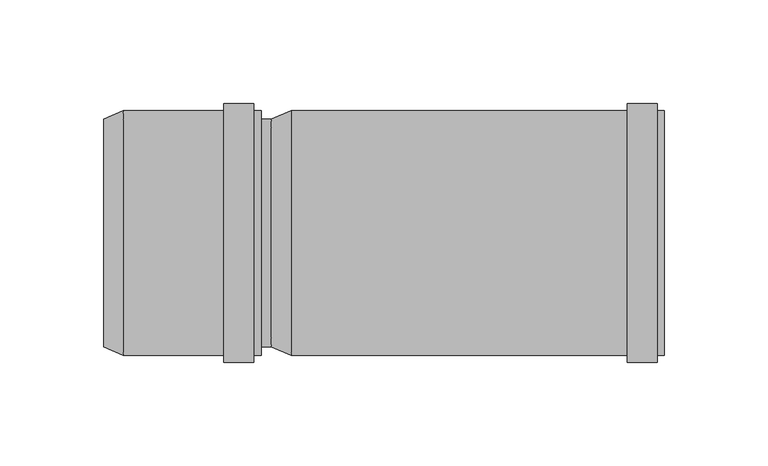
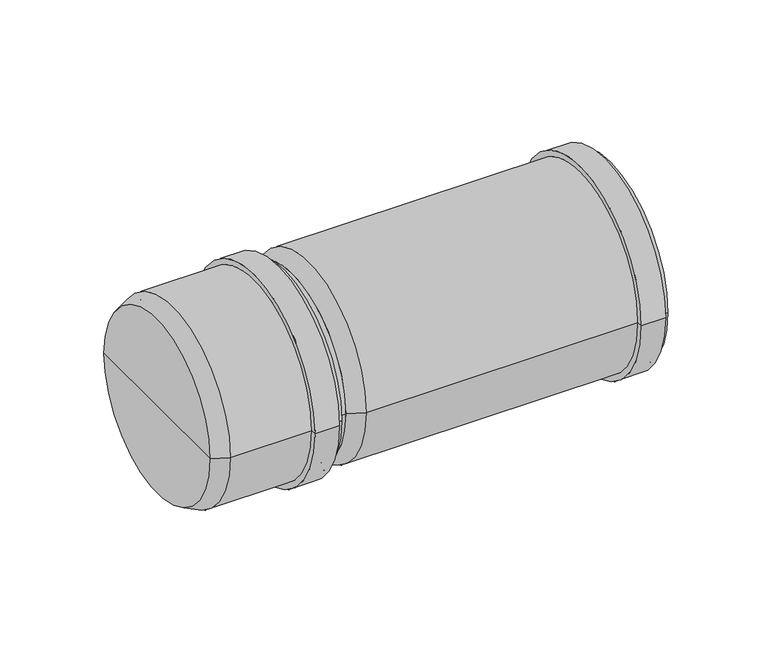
"""IFC4 building model written with IfcOpenShell, lengths in millimetres: pipe fitting geometry, pf_HTL : pf_HTL."""

import ifcopenshell
import ifcopenshell.guid

model = None  # the IFC model being written
_history = None  # IfcOwnerHistory: only IFC2X3 demands one
_inside = {}  # id of a spatial element -> (the spatial element, [elements in it])
_under = {}  # id of a project, library or spatial element -> (it, [spatial elements below it])
_declared = {}  # id of a project -> (the project, [libraries it declares])
_typed = {}  # id of a type object -> (the type object, [elements of that type])
_made_of = {}  # id of a material, layer set ... -> (it, [elements and type objects made of it])


def new_model(schema):
    """Start an empty IFC model of exactly this schema.

    Asked for "IFC4X3", IfcOpenShell would pick the latest addendum, in which some entities
    have other attributes; the version numbers below select the first issue.
    IFC2X3 requires an IfcOwnerHistory on every rooted entity: one is made here for all.
    """
    global model, _history
    if schema == "IFC4X3":
        model = ifcopenshell.file(schema_version=(4, 3, 0, 0))
    else:
        model = ifcopenshell.file(schema=schema)
    _inside.clear()
    _under.clear()
    _declared.clear()
    _typed.clear()
    _made_of.clear()
    _history = None
    if model.schema == "IFC2X3":
        org = make("IfcOrganization", Name="unknown")
        user = make(
            "IfcPersonAndOrganization",
            ThePerson=make("IfcPerson", FamilyName="unknown"),
            TheOrganization=org,
        )
        app = make(
            "IfcApplication",
            ApplicationDeveloper=org,
            Version="unknown",
            ApplicationFullName="unknown",
            ApplicationIdentifier="unknown",
        )
        _history = make(
            "IfcOwnerHistory",
            OwningUser=user,
            OwningApplication=app,
            ChangeAction="ADDED",
            CreationDate=0,
        )
    return model


def make(cls, **values):
    """One entity of the class cls with the attributes given. An attribute that is None is left unset."""
    return model.create_entity(
        cls, **{name: value for name, value in values.items() if value is not None}
    )


def rooted(cls, **values):
    """An entity with a GlobalId (a new one), such as an element, a storey or a relation."""
    return make(cls, GlobalId=ifcopenshell.guid.new(), OwnerHistory=_history, **values)


def si_unit(unit_type, name, prefix=None):
    """IfcSIUnit, for example si_unit("LENGTHUNIT", "METRE", prefix="MILLI")."""
    return make("IfcSIUnit", UnitType=unit_type, Prefix=prefix, Name=name)


def assignment(units):
    """IfcUnitAssignment: the units of a project."""
    return None if units is None else make("IfcUnitAssignment", Units=units)


def point(xyz):
    """IfcCartesianPoint."""
    return None if xyz is None else make("IfcCartesianPoint", Coordinates=xyz)


def direction(xyz):
    """IfcDirection."""
    return None if xyz is None else make("IfcDirection", DirectionRatios=xyz)


def frame(location, z_axis=None, x_axis=None):
    """IfcAxis2Placement3D, a coordinate frame: its origin and axes. An axis left out is left unset."""
    return make(
        "IfcAxis2Placement3D",
        Location=point(location),
        Axis=direction(z_axis),
        RefDirection=direction(x_axis),
    )


def frame_2d(location, x_axis=None):
    """IfcAxis2Placement2D, a coordinate frame in the plane: its origin and x axis."""
    return make(
        "IfcAxis2Placement2D", Location=point(location), RefDirection=direction(x_axis)
    )


def origin():
    """The frame at (0, 0, 0) with its axes left unset."""
    return frame((0.0, 0.0, 0.0))


def origin_2d():
    """The frame at (0, 0) in the plane with its x axis left unset."""
    return frame_2d((0.0, 0.0))


def place(relative_to, where):
    """IfcLocalPlacement: puts the frame where relative to a parent placement (None: the world)."""
    return make(
        "IfcLocalPlacement", PlacementRelTo=relative_to, RelativePlacement=where
    )


def context(
    kind, dimensions, precision=None, world=None, true_north=None, identifier=None
):
    """IfcGeometricRepresentationContext, for example the 3D "Model" context."""
    return make(
        "IfcGeometricRepresentationContext",
        ContextIdentifier=identifier,
        ContextType=kind,
        CoordinateSpaceDimension=dimensions,
        Precision=precision,
        WorldCoordinateSystem=world,
        TrueNorth=true_north,
    )


def project(units=None, contexts=None):
    """IfcProject with its units and contexts."""
    return rooted(
        "IfcProject",
        Name="project",
        RepresentationContexts=contexts,
        UnitsInContext=assignment(units),
    )


def spatial(cls, under=None, at=None, **own):
    """A site, building, storey or space (cls), placed at a placement, below another one or the project."""
    s = rooted(cls, ObjectPlacement=at, **own)
    if under is not None:
        _under.setdefault(under.id(), (under, []))[1].append(s)
    return s


def polyline(points):
    """IfcPolyline through the points."""
    return make("IfcPolyline", Points=[point(p) for p in points])


def circle_curve(where, radius):
    """IfcCircle in the frame where."""
    return make("IfcCircle", Position=where, Radius=radius)


def trimmed(basis, trim1, trim2, sense, master):
    """IfcTrimmedCurve: the piece of a basis curve between two trims."""
    return make(
        "IfcTrimmedCurve",
        BasisCurve=basis,
        Trim1=trim1,
        Trim2=trim2,
        SenseAgreement=sense,
        MasterRepresentation=master,
    )


def segment(curve, same_sense, transition):
    """IfcCompositeCurveSegment."""
    return make(
        "IfcCompositeCurveSegment",
        Transition=transition,
        SameSense=same_sense,
        ParentCurve=curve,
    )


def composite_curve(segments, self_intersect=None):
    """IfcCompositeCurve: segments joined end to end."""
    return make("IfcCompositeCurve", Segments=segments, SelfIntersect=self_intersect)


def outline(outer, holes=None, kind="AREA"):
    """IfcArbitraryClosedProfileDef: a profile drawn as a closed curve; with holes, ...WithVoids."""
    if holes is None:
        return make("IfcArbitraryClosedProfileDef", ProfileType=kind, OuterCurve=outer)
    return make(
        "IfcArbitraryProfileDefWithVoids",
        ProfileType=kind,
        OuterCurve=outer,
        InnerCurves=holes,
    )


def extrude(swept, where, along, depth):
    """IfcExtrudedAreaSolid: the profile swept, set in the frame where, extruded along a direction by depth."""
    return make(
        "IfcExtrudedAreaSolid",
        SweptArea=swept,
        Position=where,
        ExtrudedDirection=direction(along),
        Depth=depth,
    )


def shape(context_of_items, identifier, shape_type, items):
    """IfcShapeRepresentation: the items that make up one representation, for example the "Body"."""
    return make(
        "IfcShapeRepresentation",
        ContextOfItems=context_of_items,
        RepresentationIdentifier=identifier,
        RepresentationType=shape_type,
        Items=items,
    )


def source(mapping_origin, context_of_items, identifier, shape_type, items):
    """IfcRepresentationMap: a shape defined once, which mapped items show again and again."""
    return make(
        "IfcRepresentationMap",
        MappingOrigin=mapping_origin,
        MappedRepresentation=shape(context_of_items, identifier, shape_type, items),
    )


def transform(
    local_origin,
    x_axis=None,
    y_axis=None,
    z_axis=None,
    scale=None,
    scale2=None,
    scale3=None,
    uniform=True,
):
    """IfcCartesianTransformationOperator3D, or its non-uniform kind. x_axis, y_axis, z_axis: its Axis1, 2, 3."""
    if uniform:
        return make(
            "IfcCartesianTransformationOperator3D",
            Axis1=direction(x_axis),
            Axis2=direction(y_axis),
            LocalOrigin=point(local_origin),
            Scale=scale,
            Axis3=direction(z_axis),
        )
    return make(
        "IfcCartesianTransformationOperator3DnonUniform",
        Axis1=direction(x_axis),
        Axis2=direction(y_axis),
        LocalOrigin=point(local_origin),
        Scale=scale,
        Axis3=direction(z_axis),
        Scale2=scale2,
        Scale3=scale3,
    )


def mapped(mapping_source, mapping_target):
    """IfcMappedItem: shows the shape of a source again, moved by a transform."""
    return make(
        "IfcMappedItem", MappingSource=mapping_source, MappingTarget=mapping_target
    )


def made_of(thing, what):
    """Note that an element or type object is made of a material, layer set ...; save() writes the relation."""
    if what is not None:
        _made_of.setdefault(what.id(), (what, []))[1].append(thing)
    return thing


def element(
    cls,
    number,
    at=None,
    inside=None,
    cuts=None,
    type_object=None,
    material=None,
    context=None,
    identifier="Body",
    shape_type=None,
    held_by="IfcProductDefinitionShape",
    body=None,
    shapes=None,
    **own,
):
    """One element of the class cls, such as IfcWall. Its Tag is "e" and its number.

    at: its placement. inside: the storey or other place that contains it. cuts: it is an
    opening in that element (IfcRelVoidsElement). A single representation is given by context,
    identifier, shape_type and body (its items); several are given by shapes. held_by: the class
    of the entity that holds the representations. save() writes the other relations.
    """
    e = rooted(cls, Tag="e%d" % number, ObjectPlacement=at, **own)
    if body is not None:
        shapes = [shape(context, identifier, shape_type, body)]
    if shapes is not None:
        e.Representation = make(held_by, Representations=shapes)
    if inside is not None:
        _inside.setdefault(inside.id(), (inside, []))[1].append(e)
    if cuts is not None:
        rooted(
            "IfcRelVoidsElement", RelatingBuildingElement=cuts, RelatedOpeningElement=e
        )
    if type_object is not None:
        _typed.setdefault(type_object.id(), (type_object, []))[1].append(e)
    return made_of(e, material)


def aggregate(whole, parts):
    """IfcRelAggregates: a whole, such as a stair, and the parts it consists of."""
    return rooted("IfcRelAggregates", RelatingObject=whole, RelatedObjects=parts)


def save(model, path):
    """Write the relations noted so far, then the file.

    IfcRelAggregates (storeys below a building ...), IfcRelContainedInSpatialStructure (elements
    in a storey), IfcRelDefinesByType, IfcRelAssociatesMaterial and IfcRelDeclares: one each for
    every whole, place, type object, material and project.
    """
    for whole, parts in _under.values():
        aggregate(whole, parts)
    for where, things in _inside.values():
        rooted(
            "IfcRelContainedInSpatialStructure",
            RelatedElements=things,
            RelatingStructure=where,
        )
    for kind, things in _typed.values():
        rooted("IfcRelDefinesByType", RelatedObjects=things, RelatingType=kind)
    for what, things in _made_of.values():
        rooted("IfcRelAssociatesMaterial", RelatedObjects=things, RelatingMaterial=what)
    for by, libraries in _declared.values():
        rooted("IfcRelDeclares", RelatingContext=by, RelatedDefinitions=libraries)
    model.write(path)


def plane_surface(at):
    """IfcPlane: the flat surface through the origin of the frame at, square to its z axis."""
    return make("IfcPlane", Position=at)


def cylinder_surface(at, radius):
    """IfcCylindricalSurface: all points at the distance radius from the z axis of the frame at."""
    return make("IfcCylindricalSurface", Position=at, Radius=radius)


def revolved_surface(curve, axis_point, axis_direction):
    """IfcSurfaceOfRevolution: the curve turned about the line through axis_point along axis_direction."""
    return make(
        "IfcSurfaceOfRevolution",
        SweptCurve=make("IfcArbitraryOpenProfileDef", ProfileType="CURVE", Curve=curve),
        AxisPosition=make("IfcAxis1Placement", Location=point(axis_point), Axis=direction(axis_direction)),
    )


def advanced_brep(points, edges, surfaces, faces):
    """IfcAdvancedBrep: a solid bounded by faces that lie on surfaces and meet in shared edges.

    An edge is (start, end): straight between two places in points (the first is 0);
    or (start, end, curve); or (start, end, curve, False) where it runs against its curve.
    A face is (place in surfaces, loops), or (place, loops, False) where it looks against
    its surface's normal. A loop lists edges by number (the first is 1), with a minus sign
    where the edge is run from its end to its start. The first loop is the outer one.
    """
    corners = [point(p) for p in points]
    vertices = [make("IfcVertexPoint", VertexGeometry=c) for c in corners]
    made = []
    for start, end, *more in edges:
        made.append(
            make(
                "IfcEdgeCurve",
                EdgeStart=vertices[start],
                EdgeEnd=vertices[end],
                EdgeGeometry=more[0] if more else make("IfcPolyline", Points=[corners[start], corners[end]]),
                SameSense=more[1] if len(more) > 1 else True,
            )
        )
    hull = []
    for where, loops, *sense in faces:
        bounds = []
        for j, loop in enumerate(loops):
            ring = [make("IfcOrientedEdge", EdgeElement=made[abs(k) - 1], Orientation=k > 0) for k in loop]
            bounds.append(
                make(
                    "IfcFaceOuterBound" if j == 0 else "IfcFaceBound",
                    Bound=make("IfcEdgeLoop", EdgeList=ring),
                    Orientation=True,
                )
            )
        hull.append(make("IfcAdvancedFace", Bounds=bounds, FaceSurface=surfaces[where], SameSense=sense[0] if sense else True))
    return make("IfcAdvancedBrep", Outer=make("IfcClosedShell", CfsFaces=hull))


def pipe_fitting_c00d96c8(model_context):
    return source(origin(), model_context, "Body", "SolidModel", [
        advanced_brep(
        [(0.0, -55.0, 0.0), (0.0, 55.0, 0.0), (9.5, 59.1, 0.0), (9.5, -59.1, 0.0), (0.0, 0.0, 0.0), (189.7, -59.1, 0.0), (189.7, 59.1, 0.0), (189.7, 55.0, 0.0), (189.7, -55.0, 0.0), (186.3, -59.1, 0.0), (186.3, 59.1, 0.0), (186.3, -62.5, 0.0), (186.3, 62.5, 0.0), (171.8, -62.5, 0.0), (171.8, 62.5, 0.0), (171.8, -59.1, 0.0), (171.8, 59.1, 0.0), (9.5, -55.0, 0.0), (9.5, 55.0, 0.0), (9.5, 0.0, 0.0)],
        [
            (0, 1, circle_curve(frame((0.0, 0.0, 0.0), z_axis=(1.0, 0.0, 0.0), x_axis=(0.0, 1.0, 0.0)), 55.0)),
            (1, 2),
            (2, 3, circle_curve(frame((9.5, 0.0, 0.0), z_axis=(-1.0, 0.0, 0.0), x_axis=(0.0, 1.0, 0.0)), 59.1)),
            (3, 0),
            (1, 0, circle_curve(frame((0.0, 0.0, 0.0), z_axis=(1.0, 0.0, 0.0), x_axis=(0.0, 1.0, 0.0)), 55.0)),
            (3, 2, circle_curve(frame((9.5, 0.0, 0.0), z_axis=(-1.0, 0.0, 0.0), x_axis=(0.0, 1.0, 0.0)), 59.1)),
            (4, 1),
            (0, 4),
            (5, 6, circle_curve(frame((189.7, 0.0, 0.0), z_axis=(1.0, 0.0, 0.0), x_axis=(0.0, 1.0, 0.0)), 59.1)),
            (6, 7),
            (7, 8, circle_curve(frame((189.7, 0.0, 0.0), z_axis=(-1.0, 0.0, 0.0), x_axis=(0.0, 1.0, 0.0)), 55.0)),
            (8, 5),
            (6, 5, circle_curve(frame((189.7, 0.0, 0.0), z_axis=(1.0, 0.0, 0.0), x_axis=(0.0, 1.0, 0.0)), 59.1)),
            (8, 7, circle_curve(frame((189.7, 0.0, 0.0), z_axis=(-1.0, 0.0, 0.0), x_axis=(0.0, 1.0, 0.0)), 55.0)),
            (9, 10, circle_curve(frame((186.3, 0.0, 0.0), z_axis=(1.0, 0.0, 0.0), x_axis=(0.0, 1.0, 0.0)), 59.1)),
            (10, 6),
            (5, 9),
            (10, 9, circle_curve(frame((186.3, 0.0, 0.0), z_axis=(1.0, 0.0, 0.0), x_axis=(0.0, 1.0, 0.0)), 59.1)),
            (11, 12, circle_curve(frame((186.3, 0.0, 0.0), z_axis=(1.0, 0.0, 0.0), x_axis=(0.0, 1.0, 0.0)), 62.5)),
            (12, 10),
            (9, 11),
            (12, 11, circle_curve(frame((186.3, 0.0, 0.0), z_axis=(1.0, 0.0, 0.0), x_axis=(0.0, 1.0, 0.0)), 62.5)),
            (13, 14, circle_curve(frame((171.8, 0.0, 0.0), z_axis=(1.0, 0.0, 0.0), x_axis=(0.0, 1.0, 0.0)), 62.5)),
            (14, 12),
            (11, 13),
            (14, 13, circle_curve(frame((171.8, 0.0, 0.0), z_axis=(1.0, 0.0, 0.0), x_axis=(0.0, 1.0, 0.0)), 62.5)),
            (15, 16, circle_curve(frame((171.8, 0.0, 0.0), z_axis=(1.0, 0.0, 0.0), x_axis=(0.0, 1.0, 0.0)), 59.1)),
            (16, 14),
            (13, 15),
            (16, 15, circle_curve(frame((171.8, 0.0, 0.0), z_axis=(1.0, 0.0, 0.0), x_axis=(0.0, 1.0, 0.0)), 59.1)),
            (2, 16),
            (15, 3),
            (17, 18, circle_curve(frame((9.5, 0.0, 0.0), z_axis=(1.0, 0.0, 0.0), x_axis=(0.0, 1.0, 0.0)), 55.0)),
            (18, 19),
            (19, 17),
            (18, 17, circle_curve(frame((9.5, 0.0, 0.0), z_axis=(1.0, 0.0, 0.0), x_axis=(0.0, 1.0, 0.0)), 55.0)),
            (7, 18),
            (17, 8),
        ],
        [
            revolved_surface(polyline([(9.5, 59.1, 0.0), (0.0, 55.0, 0.0)]), (0.0, 0.0, 0.0), (-1.0, 0.0, 0.0)),
            plane_surface(frame((0.0, 0.0, 0.0), z_axis=(-1.0, 0.0, 0.0), x_axis=(0.0, 1.0, 0.0))),
            plane_surface(frame((189.7, 0.0, 0.0), z_axis=(1.0, 0.0, 0.0), x_axis=(0.0, 1.0, 0.0))),
            cylinder_surface(frame((0.0, 0.0, 0.0), z_axis=(-1.0, 0.0, 0.0), x_axis=(0.0, 1.0, 0.0)), 59.1),
            plane_surface(frame((186.3, 0.0, 0.0), z_axis=(1.0, 0.0, 0.0), x_axis=(0.0, 1.0, 0.0))),
            cylinder_surface(frame((0.0, 0.0, 0.0), z_axis=(-1.0, 0.0, 0.0), x_axis=(0.0, 1.0, 0.0)), 62.5),
            plane_surface(frame((171.8, 0.0, 0.0), z_axis=(-1.0, 0.0, 0.0), x_axis=(0.0, 1.0, 0.0))),
            plane_surface(frame((9.5, 0.0, 0.0), z_axis=(1.0, 0.0, 0.0), x_axis=(0.0, 1.0, 0.0))),
            revolved_surface(polyline([(9.5, 55.0, 0.0), (189.7, 55.0, 0.0)]), (0.0, 0.0, 0.0), (-1.0, 0.0, 0.0)),
        ],
        [
            (0, [[1, 2, 3, 4]]),
            (0, [[5, -4, 6, -2]]),
            (1, [[7, -1, 8]]),
            (1, [[-8, -5, -7]]),
            (2, [[9, 10, 11, 12]]),
            (2, [[13, -12, 14, -10]]),
            (3, [[15, 16, -9, 17]]),
            (3, [[18, -17, -13, -16]]),
            (4, [[19, 20, -15, 21]]),
            (4, [[22, -21, -18, -20]]),
            (5, [[23, 24, -19, 25]]),
            (5, [[26, -25, -22, -24]]),
            (6, [[27, 28, -23, 29]]),
            (6, [[30, -29, -26, -28]]),
            (3, [[-3, 31, -27, 32]]),
            (3, [[-6, -32, -30, -31]]),
            (7, [[33, 34, 35]]),
            (7, [[36, -35, -34]]),
            (8, [[-11, 37, -33, 38]]),
            (8, [[-14, -38, -36, -37]]),
        ],
    ),
        advanced_brep(
        [(-81.0, -55.0, 0.0), (-81.0, 55.0, 0.0), (-71.5, 59.1, 0.0), (-71.5, -59.1, 0.0), (-81.0, 0.0, 0.0), (-5.0, -59.1, 0.0), (-5.0, 59.1, 0.0), (-5.0, 55.0, 0.0), (-5.0, -55.0, 0.0), (-8.4, -59.1, 0.0), (-8.4, 59.1, 0.0), (-8.4, -62.5, 0.0), (-8.4, 62.5, 0.0), (-22.9, -62.5, 0.0), (-22.9, 62.5, 0.0), (-22.9, -59.1, 0.0), (-22.9, 59.1, 0.0), (-71.5, -55.0, 0.0), (-71.5, 55.0, 0.0), (-71.5, 0.0, 0.0)],
        [
            (0, 1, circle_curve(frame((-81.0, 0.0, 0.0), z_axis=(1.0, 0.0, 0.0), x_axis=(0.0, 1.0, 0.0)), 55.0)),
            (1, 2),
            (2, 3, circle_curve(frame((-71.5, 0.0, 0.0), z_axis=(-1.0, 0.0, 0.0), x_axis=(0.0, 1.0, 0.0)), 59.1)),
            (3, 0),
            (1, 0, circle_curve(frame((-81.0, 0.0, 0.0), z_axis=(1.0, 0.0, 0.0), x_axis=(0.0, 1.0, 0.0)), 55.0)),
            (3, 2, circle_curve(frame((-71.5, 0.0, 0.0), z_axis=(-1.0, 0.0, 0.0), x_axis=(0.0, 1.0, 0.0)), 59.1)),
            (4, 1),
            (0, 4),
            (5, 6, circle_curve(frame((-5.0, 0.0, 0.0), z_axis=(1.0, 0.0, 0.0), x_axis=(0.0, 1.0, 0.0)), 59.1)),
            (6, 7),
            (7, 8, circle_curve(frame((-5.0, 0.0, 0.0), z_axis=(-1.0, 0.0, 0.0), x_axis=(0.0, 1.0, 0.0)), 55.0)),
            (8, 5),
            (6, 5, circle_curve(frame((-5.0, 0.0, 0.0), z_axis=(1.0, 0.0, 0.0), x_axis=(0.0, 1.0, 0.0)), 59.1)),
            (8, 7, circle_curve(frame((-5.0, 0.0, 0.0), z_axis=(-1.0, 0.0, 0.0), x_axis=(0.0, 1.0, 0.0)), 55.0)),
            (9, 10, circle_curve(frame((-8.4, 0.0, 0.0), z_axis=(1.0, 0.0, 0.0), x_axis=(0.0, 1.0, 0.0)), 59.1)),
            (10, 6),
            (5, 9),
            (10, 9, circle_curve(frame((-8.4, 0.0, 0.0), z_axis=(1.0, 0.0, 0.0), x_axis=(0.0, 1.0, 0.0)), 59.1)),
            (11, 12, circle_curve(frame((-8.4, 0.0, 0.0), z_axis=(1.0, 0.0, 0.0), x_axis=(0.0, 1.0, 0.0)), 62.5)),
            (12, 10),
            (9, 11),
            (12, 11, circle_curve(frame((-8.4, 0.0, 0.0), z_axis=(1.0, 0.0, 0.0), x_axis=(0.0, 1.0, 0.0)), 62.5)),
            (13, 14, circle_curve(frame((-22.9, 0.0, 0.0), z_axis=(1.0, 0.0, 0.0), x_axis=(0.0, 1.0, 0.0)), 62.5)),
            (14, 12),
            (11, 13),
            (14, 13, circle_curve(frame((-22.9, 0.0, 0.0), z_axis=(1.0, 0.0, 0.0), x_axis=(0.0, 1.0, 0.0)), 62.5)),
            (15, 16, circle_curve(frame((-22.9, 0.0, 0.0), z_axis=(1.0, 0.0, 0.0), x_axis=(0.0, 1.0, 0.0)), 59.1)),
            (16, 14),
            (13, 15),
            (16, 15, circle_curve(frame((-22.9, 0.0, 0.0), z_axis=(1.0, 0.0, 0.0), x_axis=(0.0, 1.0, 0.0)), 59.1)),
            (2, 16),
            (15, 3),
            (17, 18, circle_curve(frame((-71.5, 0.0, 0.0), z_axis=(1.0, 0.0, 0.0), x_axis=(0.0, 1.0, 0.0)), 55.0)),
            (18, 19),
            (19, 17),
            (18, 17, circle_curve(frame((-71.5, 0.0, 0.0), z_axis=(1.0, 0.0, 0.0), x_axis=(0.0, 1.0, 0.0)), 55.0)),
            (7, 18),
            (17, 8),
        ],
        [
            revolved_surface(polyline([(-71.5, 59.1, 0.0), (-81.0, 55.0, 0.0)]), (-81.0, 0.0, 0.0), (-1.0, 0.0, 0.0)),
            plane_surface(frame((-81.0, 0.0, 0.0), z_axis=(-1.0, 0.0, 0.0), x_axis=(0.0, 1.0, 0.0))),
            plane_surface(frame((-5.0, 0.0, 0.0), z_axis=(1.0, 0.0, 0.0), x_axis=(0.0, 1.0, 0.0))),
            cylinder_surface(frame((-81.0, 0.0, 0.0), z_axis=(-1.0, 0.0, 0.0), x_axis=(0.0, 1.0, 0.0)), 59.1),
            plane_surface(frame((-8.4, 0.0, 0.0), z_axis=(1.0, 0.0, 0.0), x_axis=(0.0, 1.0, 0.0))),
            cylinder_surface(frame((-81.0, 0.0, 0.0), z_axis=(-1.0, 0.0, 0.0), x_axis=(0.0, 1.0, 0.0)), 62.5),
            plane_surface(frame((-22.9, 0.0, 0.0), z_axis=(-1.0, 0.0, 0.0), x_axis=(0.0, 1.0, 0.0))),
            plane_surface(frame((-71.5, 0.0, 0.0), z_axis=(1.0, 0.0, 0.0), x_axis=(0.0, 1.0, 0.0))),
            revolved_surface(polyline([(-71.5, 55.0, 0.0), (-5.0, 55.0, 0.0)]), (-81.0, 0.0, 0.0), (-1.0, 0.0, 0.0)),
        ],
        [
            (0, [[1, 2, 3, 4]]),
            (0, [[5, -4, 6, -2]]),
            (1, [[7, -1, 8]]),
            (1, [[-8, -5, -7]]),
            (2, [[9, 10, 11, 12]]),
            (2, [[13, -12, 14, -10]]),
            (3, [[15, 16, -9, 17]]),
            (3, [[18, -17, -13, -16]]),
            (4, [[19, 20, -15, 21]]),
            (4, [[22, -21, -18, -20]]),
            (5, [[23, 24, -19, 25]]),
            (5, [[26, -25, -22, -24]]),
            (6, [[27, 28, -23, 29]]),
            (6, [[30, -29, -26, -28]]),
            (3, [[-3, 31, -27, 32]]),
            (3, [[-6, -32, -30, -31]]),
            (7, [[33, 34, 35]]),
            (7, [[36, -35, -34]]),
            (8, [[-11, 37, -33, 38]]),
            (8, [[-14, -38, -36, -37]]),
        ],
    ),
        extrude(outline(composite_curve([segment(trimmed(circle_curve(origin_2d(), 55.0), [point((-55.0, 0.0))], [point((55.0, 0.0))], False, "CARTESIAN"), True, "CONTINUOUS"), segment(trimmed(circle_curve(origin_2d(), 55.0), [point((55.0, 0.0))], [point((-55.0, 0.0))], False, "CARTESIAN"), True, "CONTINUOUS")], self_intersect=False)), frame((-5.0, 0.0, 0.0), z_axis=(1.0, 0.0, 0.0), x_axis=(0.0, 1.0, 0.0)), (0.0, 0.0, 1.0), 5.0),
    ])


if __name__ == "__main__":
    model = new_model("IFC4")
    model_context = context("Model", 3, world=origin())
    ifc_project = project(units=[si_unit("LENGTHUNIT", "METRE", prefix="MILLI")], contexts=[model_context])
    site = spatial("IfcSite", under=ifc_project)
    building = spatial("IfcBuilding", under=site)
    placement = place(None, origin())
    pipe_fitting_shape = pipe_fitting_c00d96c8(model_context)
    element("IfcPipeFitting", 1, ObjectType="pf_HTL : pf_HTL", at=placement, inside=building, context=model_context, shape_type="MappedRepresentation", body=[
        mapped(pipe_fitting_shape, transform((0.0, 0.0, 0.0), x_axis=(1.0, 0.0, 0.0), y_axis=(0.0, 1.0, 0.0), z_axis=(0.0, 0.0, 1.0))),
    ])
    save(model, "model.ifc")
